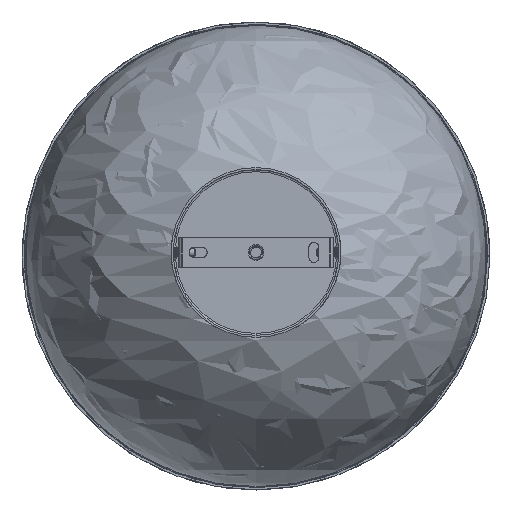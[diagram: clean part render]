
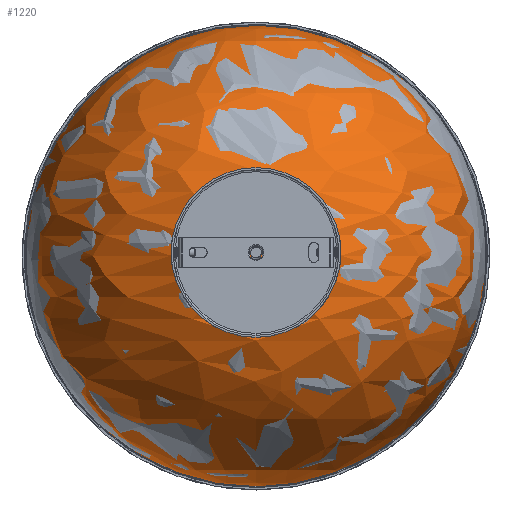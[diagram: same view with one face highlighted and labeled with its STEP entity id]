
A CAD part, top view. The second image highlights one B-rep face of the part: STEP entity #1220.
In plain terms, the highlighted free-form (B-spline) face has degree [2, 2] with [5, 5] control points.
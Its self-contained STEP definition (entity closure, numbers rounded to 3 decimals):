
#240=(
BOUNDED_SURFACE()
B_SPLINE_SURFACE(2,2,((#16786,#16787,#16788,#16789,#16790),(#16791,#16792,
#16793,#16794,#16795),(#16796,#16797,#16798,#16799,#16800),(#16801,#16802,
#16803,#16804,#16805),(#16806,#16807,#16808,#16809,#16810)),
 .UNSPECIFIED.,.F.,.F.,.F.)
B_SPLINE_SURFACE_WITH_KNOTS((3,2,3),(3,2,3),(3.142,4.712,
6.283),(4.712,6.283,7.854),
 .UNSPECIFIED.)
GEOMETRIC_REPRESENTATION_ITEM()
RATIONAL_B_SPLINE_SURFACE(((1.,0.707,1.,0.707,1.),
(0.707,0.5,0.707,0.5,0.707),(1.,0.707,
1.,0.707,1.),(0.707,0.5,0.707,0.5,0.707),
(1.,0.707,1.,0.707,1.)))
REPRESENTATION_ITEM('')
SURFACE()
);
#1220=ADVANCED_FACE('',(#1595),#240,.T.);
#1595=FACE_OUTER_BOUND('',#1989,.T.);
#1989=EDGE_LOOP('',(#2970,#2971));
#2970=ORIENTED_EDGE('',*,*,#4400,.T.);
#2971=ORIENTED_EDGE('',*,*,#4401,.F.);
#4400=EDGE_CURVE('',#7862,#7863,#6124,.T.);
#4401=EDGE_CURVE('',#7862,#7863,#6125,.T.);
#6124=TRIMMED_CURVE($,#6803,(#16839),(#16840),.T.,.CARTESIAN.);
#6125=TRIMMED_CURVE($,#6804,(#16842),(#16843),.T.,.CARTESIAN.);
#6803=CIRCLE('',#9367,115.5);
#6804=CIRCLE('',#9368,115.5);
#7862=VERTEX_POINT('',#16836);
#7863=VERTEX_POINT('',#16837);
#9367=AXIS2_PLACEMENT_3D($,#16838,#10739,#10740);
#9368=AXIS2_PLACEMENT_3D($,#16841,#10741,#10742);
#10739=DIRECTION('',(0.,0.,1.));
#10740=DIRECTION('',(0.,1.,0.));
#10741=DIRECTION('',(0.,0.,-1.));
#10742=DIRECTION('',(0.,1.,0.));
#16786=CARTESIAN_POINT('',(-0.799,108.043,134.223));
#16787=CARTESIAN_POINT('',(114.701,108.043,134.223));
#16788=CARTESIAN_POINT('',(114.701,-7.457,134.223));
#16789=CARTESIAN_POINT('',(114.701,-122.957,134.223));
#16790=CARTESIAN_POINT('',(-0.799,-122.957,134.223));
#16791=CARTESIAN_POINT('',(-0.799,108.043,134.223));
#16792=CARTESIAN_POINT('',(114.701,108.043,249.723));
#16793=CARTESIAN_POINT('',(114.701,-7.457,249.723));
#16794=CARTESIAN_POINT('',(114.701,-122.957,249.723));
#16795=CARTESIAN_POINT('',(-0.799,-122.957,134.223));
#16796=CARTESIAN_POINT('',(-0.799,108.043,134.223));
#16797=CARTESIAN_POINT('',(-0.799,108.043,249.723));
#16798=CARTESIAN_POINT('',(-0.799,-7.457,249.723));
#16799=CARTESIAN_POINT('',(-0.799,-122.957,249.723));
#16800=CARTESIAN_POINT('',(-0.799,-122.957,134.223));
#16801=CARTESIAN_POINT('',(-0.799,108.043,134.223));
#16802=CARTESIAN_POINT('',(-116.299,108.043,249.723));
#16803=CARTESIAN_POINT('',(-116.299,-7.457,249.723));
#16804=CARTESIAN_POINT('',(-116.299,-122.957,249.723));
#16805=CARTESIAN_POINT('',(-0.799,-122.957,134.223));
#16806=CARTESIAN_POINT('',(-0.799,108.043,134.223));
#16807=CARTESIAN_POINT('',(-116.299,108.043,134.223));
#16808=CARTESIAN_POINT('',(-116.299,-7.457,134.223));
#16809=CARTESIAN_POINT('',(-116.299,-122.957,134.223));
#16810=CARTESIAN_POINT('',(-0.799,-122.957,134.223));
#16836=CARTESIAN_POINT('',(-0.799,108.043,134.223));
#16837=CARTESIAN_POINT('',(-0.799,-122.957,134.223));
#16838=CARTESIAN_POINT('',(-0.799,-7.457,134.223));
#16839=CARTESIAN_POINT('',(-0.799,108.043,134.223));
#16840=CARTESIAN_POINT('',(-0.799,-122.957,134.223));
#16841=CARTESIAN_POINT('',(-0.799,-7.457,134.223));
#16842=CARTESIAN_POINT('',(-0.799,108.043,134.223));
#16843=CARTESIAN_POINT('',(-0.799,-122.957,134.223));
